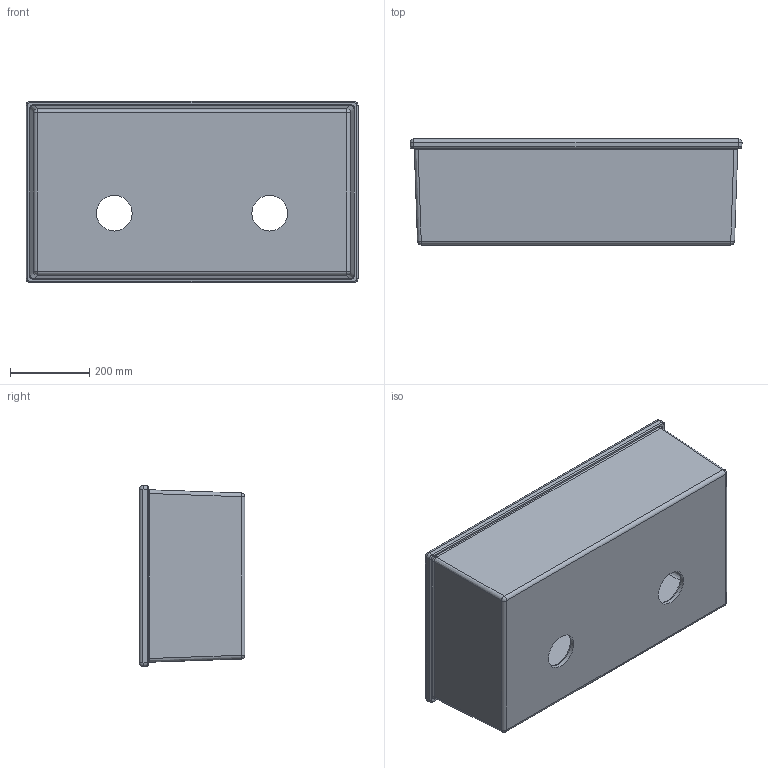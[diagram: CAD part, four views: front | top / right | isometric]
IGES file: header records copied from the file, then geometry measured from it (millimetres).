
Start section:  PTC IGES file: sku_msum3318series_igs.igs
Global section: file name: sku_msum3318series_igs.igs; native system: Creo Parametric by PTC Inc.; preprocessor: 2020053; author: bgaley; organization: Unknown; date: 20220105.153859; units: millimetre
Bounding box: 837.71 x 267 x 456.71 mm (x, y, z)
Surface area: 1934309.4 mm2 (no closed solid volume)
Topology: 0 solids, 0 shells, 134 faces, 576 edges, 576 vertices
Faces by surface type: revolution 68, bspline 66
